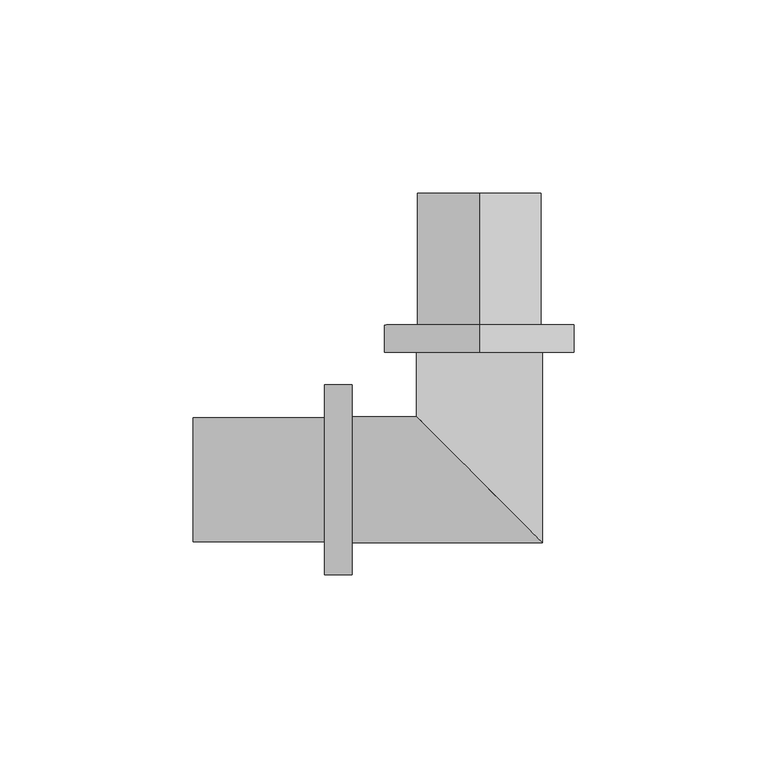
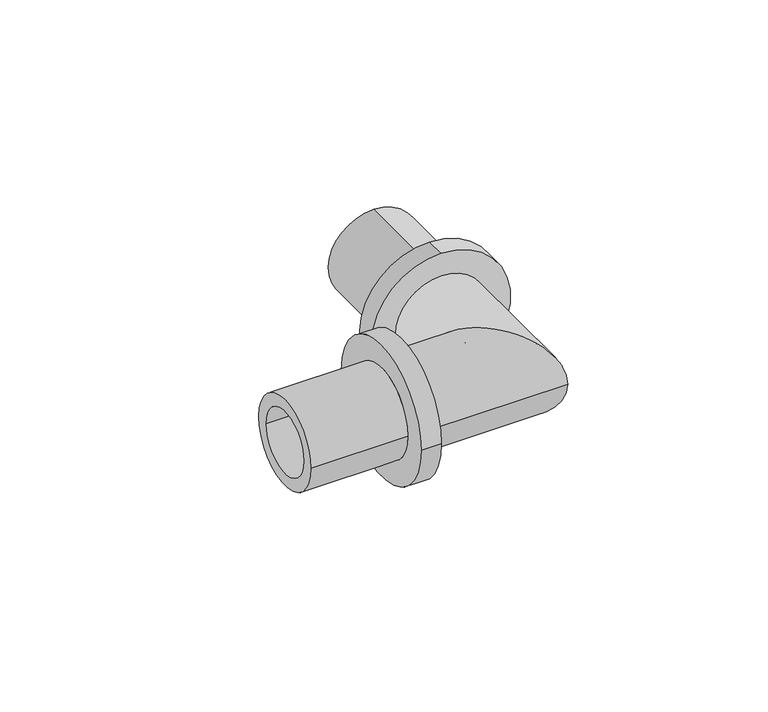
"""IFC4 building model written with IfcOpenShell, lengths in millimetres: pipe fitting geometry, RAUTITAN_Corner_LX : RTI LX/PX C DN."""

from ifc_helpers import new_model, si_unit, frame, origin, place, context, project, spatial, polyline, circle_curve, ellipse_curve, source, transform, mapped, element, save
from ifc_brep_helpers import plane_surface, cylinder_surface, revolved_surface, advanced_brep


def pipe_fitting_5a7cbde5(model_context):
    return source(origin(), model_context, "Body", "AdvancedBrep", [
        advanced_brep(
        [(0.0, 40.0, 24.5), (0.0, 40.0, -24.5), (0.0, 33.0, -24.5), (0.0, 33.0, 24.5), (0.0, 74.0, 16.0), (0.0, 74.0, -16.0), (0.0, 40.0, -16.0), (0.0, 40.0, 16.0), (0.0, 33.0, 11.5), (0.0, 33.0, -11.5), (0.0, 74.0, -11.5), (0.0, 74.0, 11.5)],
        [
            (0, 1, circle_curve(frame((0.0, 40.0, 0.0), z_axis=(0.0, -1.0, 0.0), x_axis=(0.0, 0.0, -1.0)), 24.5)),
            (1, 2),
            (2, 3, circle_curve(frame((0.0, 33.0, 0.0), z_axis=(0.0, 1.0, 0.0), x_axis=(0.0, 0.0, -1.0)), 24.5)),
            (3, 0),
            (4, 5, circle_curve(frame((0.0, 74.0, 0.0), z_axis=(0.0, -1.0, 0.0), x_axis=(0.0, 0.0, -1.0)), 16.0)),
            (5, 6),
            (6, 7, circle_curve(frame((0.0, 40.0, 0.0), z_axis=(0.0, 1.0, 0.0), x_axis=(0.0, 0.0, -1.0)), 16.0)),
            (7, 4),
            (8, 9, circle_curve(frame((0.0, 33.0, 0.0), z_axis=(0.0, -1.0, 0.0), x_axis=(0.0, 0.0, -1.0)), 11.5)),
            (9, 10),
            (10, 11, circle_curve(frame((0.0, 74.0, 0.0), z_axis=(0.0, 1.0, 0.0), x_axis=(0.0, 0.0, -1.0)), 11.5)),
            (11, 8),
            (1, 0, circle_curve(frame((0.0, 40.0, 0.0), z_axis=(0.0, -1.0, 0.0), x_axis=(0.0, 0.0, 1.0)), 24.5)),
            (3, 2, circle_curve(frame((0.0, 33.0, 0.0), z_axis=(0.0, 1.0, 0.0), x_axis=(0.0, 0.0, 1.0)), 24.5)),
            (6, 7, circle_curve(frame((0.0, 40.0, 0.0), z_axis=(0.0, -1.0, 0.0), x_axis=(0.0, 0.0, 1.0)), 16.0)),
            (5, 4, circle_curve(frame((0.0, 74.0, 0.0), z_axis=(0.0, -1.0, 0.0), x_axis=(0.0, 0.0, 1.0)), 16.0)),
            (10, 11, circle_curve(frame((0.0, 74.0, 0.0), z_axis=(0.0, -1.0, 0.0), x_axis=(0.0, 0.0, 1.0)), 11.5)),
            (9, 8, circle_curve(frame((0.0, 33.0, 0.0), z_axis=(0.0, -1.0, 0.0), x_axis=(0.0, 0.0, 1.0)), 11.5)),
        ],
        [
            cylinder_surface(frame((0.0, 33.0, 0.0), z_axis=(0.0, 1.0, 0.0), x_axis=(0.0, 0.0, -1.0)), 24.5),
            cylinder_surface(frame((0.0, 33.0, 0.0), z_axis=(0.0, 1.0, 0.0), x_axis=(0.0, 0.0, -1.0)), 16.0),
            revolved_surface(polyline([(0.0, 74.0, -11.5), (0.0, 33.0, -11.5)]), (0.0, 33.0, 0.0), (0.0, 1.0, 0.0)),
            cylinder_surface(frame((0.0, 33.0, 0.0), z_axis=(0.0, 1.0, 0.0), x_axis=(0.0, 0.0, 1.0)), 24.5),
            plane_surface(frame((0.0, 40.0, 0.0), z_axis=(0.0, 1.0, 0.0), x_axis=(0.0, 0.0, 1.0))),
            cylinder_surface(frame((0.0, 33.0, 0.0), z_axis=(0.0, 1.0, 0.0), x_axis=(0.0, 0.0, 1.0)), 16.0),
            plane_surface(frame((0.0, 74.0, 0.0), z_axis=(0.0, 1.0, 0.0), x_axis=(0.0, 0.0, 1.0))),
            revolved_surface(polyline([(0.0, 74.0, 11.5), (0.0, 33.0, 11.5)]), (0.0, 33.0, 0.0), (0.0, 1.0, 0.0)),
            plane_surface(frame((0.0, 33.0, 0.0), z_axis=(0.0, -1.0, 0.0), x_axis=(0.0, 0.0, 1.0))),
        ],
        [
            (0, [[1, 2, 3, 4]]),
            (1, [[5, 6, 7, 8]]),
            (2, [[9, 10, 11, 12]]),
            (3, [[13, -4, 14, -2]]),
            (4, [[-13, -1], [15, -7]]),
            (5, [[16, -8, -15, -6]]),
            (6, [[-16, -5], [17, -11]]),
            (7, [[18, -12, -17, -10]]),
            (8, [[-14, -3], [-18, -9]]),
        ],
    ),
        advanced_brep(
        [(-40.0, -24.5, 0.0), (-40.0, 24.5, 0.0), (-33.0, 24.5, 0.0), (-33.0, -24.5, 0.0), (-74.0, -16.0, 0.0), (-74.0, 16.0, 0.0), (-40.0, 16.0, 0.0), (-40.0, -16.0, 0.0), (-33.0, -11.5, 0.0), (-33.0, 11.5, 0.0), (-74.0, 11.5, 0.0), (-74.0, -11.5, 0.0)],
        [
            (0, 1, circle_curve(frame((-40.0, 0.0, 0.0), z_axis=(1.0, 0.0, 0.0), x_axis=(0.0, 1.0, 0.0)), 24.5)),
            (1, 2),
            (2, 3, circle_curve(frame((-33.0, 0.0, 0.0), z_axis=(-1.0, 0.0, 0.0), x_axis=(0.0, 1.0, 0.0)), 24.5)),
            (3, 0),
            (4, 5, circle_curve(frame((-74.0, 0.0, 0.0), z_axis=(1.0, 0.0, 0.0), x_axis=(0.0, 1.0, 0.0)), 16.0)),
            (5, 6),
            (6, 7, circle_curve(frame((-40.0, 0.0, 0.0), z_axis=(-1.0, 0.0, 0.0), x_axis=(0.0, 1.0, 0.0)), 16.0)),
            (7, 4),
            (8, 9, circle_curve(frame((-33.0, 0.0, 0.0), z_axis=(1.0, 0.0, 0.0), x_axis=(0.0, 1.0, 0.0)), 11.5)),
            (9, 10),
            (10, 11, circle_curve(frame((-74.0, 0.0, 0.0), z_axis=(-1.0, 0.0, 0.0), x_axis=(0.0, 1.0, 0.0)), 11.5)),
            (11, 8),
            (1, 0, circle_curve(frame((-40.0, 0.0, 0.0), z_axis=(1.0, 0.0, 0.0), x_axis=(0.0, -1.0, 0.0)), 24.5)),
            (3, 2, circle_curve(frame((-33.0, 0.0, 0.0), z_axis=(-1.0, 0.0, 0.0), x_axis=(0.0, -1.0, 0.0)), 24.5)),
            (6, 7, circle_curve(frame((-40.0, 0.0, 0.0), z_axis=(1.0, 0.0, 0.0), x_axis=(0.0, -1.0, 0.0)), 16.0)),
            (5, 4, circle_curve(frame((-74.0, 0.0, 0.0), z_axis=(1.0, 0.0, 0.0), x_axis=(0.0, -1.0, 0.0)), 16.0)),
            (10, 11, circle_curve(frame((-74.0, 0.0, 0.0), z_axis=(1.0, 0.0, 0.0), x_axis=(0.0, -1.0, 0.0)), 11.5)),
            (9, 8, circle_curve(frame((-33.0, 0.0, 0.0), z_axis=(1.0, 0.0, 0.0), x_axis=(0.0, -1.0, 0.0)), 11.5)),
        ],
        [
            cylinder_surface(frame((-33.0, 0.0, 0.0), z_axis=(-1.0, 0.0, 0.0), x_axis=(0.0, 1.0, 0.0)), 24.5),
            cylinder_surface(frame((-33.0, 0.0, 0.0), z_axis=(-1.0, 0.0, 0.0), x_axis=(0.0, 1.0, 0.0)), 16.0),
            revolved_surface(polyline([(-74.0, 11.5, 0.0), (-33.0, 11.5, 0.0)]), (-33.0, 0.0, 0.0), (-1.0, 0.0, 0.0)),
            cylinder_surface(frame((-33.0, 0.0, 0.0), z_axis=(-1.0, 0.0, 0.0), x_axis=(0.0, -1.0, 0.0)), 24.5),
            plane_surface(frame((-40.0, 0.0, 0.0), z_axis=(-1.0, 0.0, 0.0), x_axis=(0.0, -1.0, 0.0))),
            cylinder_surface(frame((-33.0, 0.0, 0.0), z_axis=(-1.0, 0.0, 0.0), x_axis=(0.0, -1.0, 0.0)), 16.0),
            plane_surface(frame((-74.0, 0.0, 0.0), z_axis=(-1.0, 0.0, 0.0), x_axis=(0.0, -1.0, 0.0))),
            revolved_surface(polyline([(-74.0, -11.5, 0.0), (-33.0, -11.5, 0.0)]), (-33.0, 0.0, 0.0), (-1.0, 0.0, 0.0)),
            plane_surface(frame((-33.0, 0.0, 0.0), z_axis=(1.0, 0.0, 0.0), x_axis=(0.0, -1.0, 0.0))),
        ],
        [
            (0, [[1, 2, 3, 4]]),
            (1, [[5, 6, 7, 8]]),
            (2, [[9, 10, 11, 12]]),
            (3, [[13, -4, 14, -2]]),
            (4, [[-13, -1], [15, -7]]),
            (5, [[16, -8, -15, -6]]),
            (6, [[-16, -5], [17, -11]]),
            (7, [[18, -12, -17, -10]]),
            (8, [[-14, -3], [-18, -9]]),
        ],
    ),
        advanced_brep(
        [(-33.0, -16.3, 0.0), (-33.0, 16.3, 0.0), (-33.0, -11.5, 0.0), (-33.0, 11.5, 0.0), (-11.5, 11.5, 0.0), (11.5, -11.5, 0.0), (16.3, 33.0, 0.0), (-16.3, 33.0, 0.0), (11.5, 33.0, 0.0), (-11.5, 33.0, 0.0), (16.3, -16.3, 0.0), (-16.3, 16.3, 0.0)],
        [
            (0, 1, circle_curve(frame((-33.0, 0.0, 0.0), z_axis=(-1.0, 0.0, 0.0), x_axis=(0.0, 1.0, 0.0)), 16.3)),
            (1, 0, circle_curve(frame((-33.0, 0.0, 0.0), z_axis=(-1.0, 0.0, 0.0), x_axis=(0.0, 1.0, 0.0)), 16.3)),
            (2, 3, circle_curve(frame((-33.0, 0.0, 0.0), z_axis=(1.0, 0.0, 0.0), x_axis=(0.0, 1.0, 0.0)), 11.5)),
            (3, 2, circle_curve(frame((-33.0, 0.0, 0.0), z_axis=(1.0, 0.0, 0.0), x_axis=(0.0, 1.0, 0.0)), 11.5)),
            (3, 4),
            (4, 5, ellipse_curve(frame((0.0, 0.0, 0.0), z_axis=(0.7071067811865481, 0.7071067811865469, 0.0), x_axis=(0.7071067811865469, -0.7071067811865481, 0.0)), 16.263456, 11.5)),
            (5, 2),
            (5, 4, ellipse_curve(frame((0.0, 0.0, 0.0), z_axis=(0.7071067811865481, 0.7071067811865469, 0.0), x_axis=(0.7071067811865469, -0.7071067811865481, 0.0)), 16.263456, 11.5)),
            (6, 7, circle_curve(frame((0.0, 33.0, 0.0), z_axis=(0.0, 1.0, 0.0), x_axis=(-1.0, 0.0, 0.0)), 16.3)),
            (7, 6, circle_curve(frame((0.0, 33.0, 0.0), z_axis=(0.0, 1.0, 0.0), x_axis=(-1.0, 0.0, 0.0)), 16.3)),
            (8, 9, circle_curve(frame((0.0, 33.0, 0.0), z_axis=(0.0, -1.0, 0.0), x_axis=(-1.0, 0.0, 0.0)), 11.5)),
            (9, 8, circle_curve(frame((0.0, 33.0, 0.0), z_axis=(0.0, -1.0, 0.0), x_axis=(-1.0, 0.0, 0.0)), 11.5)),
            (4, 9),
            (8, 5),
            (0, 10),
            (10, 11, ellipse_curve(frame((0.0, 0.0, 0.0), z_axis=(-0.7071067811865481, -0.7071067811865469, 0.0), x_axis=(-0.7071067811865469, 0.7071067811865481, 0.0)), 23.0516811, 16.3)),
            (11, 1),
            (11, 10, ellipse_curve(frame((0.0, 0.0, 0.0), z_axis=(-0.7071067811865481, -0.7071067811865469, 0.0), x_axis=(-0.7071067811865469, 0.7071067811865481, 0.0)), 23.0516811, 16.3)),
            (10, 6),
            (7, 11),
        ],
        [
            plane_surface(frame((-33.0, 0.0, 0.0), z_axis=(-1.0, 0.0, 0.0), x_axis=(0.0, 0.0, 1.0))),
            revolved_surface(polyline([(11.500000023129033, 11.5, 0.0), (-33.0, 11.5, 0.0)]), (-33.0, 0.0, 0.0), (1.0, 0.0, 0.0)),
            plane_surface(frame((0.0, 33.0, 0.0), z_axis=(0.0, 1.0, 0.0), x_axis=(0.0, 0.0, 1.0))),
            revolved_surface(polyline([(-11.5, 33.0, 0.0), (-11.5, -11.500000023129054, 0.0)]), (0.0, 0.0, 0.0), (0.0, 1.0, 0.0)),
            cylinder_surface(frame((-33.0, 0.0, 0.0), z_axis=(-1.0, 0.0, 0.0), x_axis=(0.0, 1.0, 0.0)), 16.3),
            cylinder_surface(frame((0.0, 0.0, 0.0), z_axis=(0.0, -1.0, 0.0), x_axis=(-1.0, 0.0, 0.0)), 16.3),
        ],
        [
            (0, [[1, 2], [3, 4]]),
            (1, [[-4, 5, 6, 7]]),
            (1, [[-3, -7, 8, -5]]),
            (2, [[9, 10], [11, 12]]),
            (3, [[-6, 13, -11, 14]]),
            (3, [[-8, -14, -12, -13]]),
            (4, [[-1, 15, 16, 17]]),
            (4, [[-2, -17, 18, -15]]),
            (5, [[-16, 19, -10, 20]]),
            (5, [[-18, -20, -9, -19]]),
        ],
    ),
    ])


if __name__ == "__main__":
    model = new_model("IFC4")
    model_context = context("Model", 3, world=origin())
    ifc_project = project(units=[si_unit("LENGTHUNIT", "METRE", prefix="MILLI")], contexts=[model_context])
    site = spatial("IfcSite", under=ifc_project)
    building = spatial("IfcBuilding", under=site)
    placement = place(None, origin())
    pipe_fitting_shape = pipe_fitting_5a7cbde5(model_context)
    element("IfcPipeFitting", 1, ObjectType="RAUTITAN_Corner_LX : RTI LX/PX C DN", at=placement, inside=building, context=model_context, shape_type="MappedRepresentation", body=[
        mapped(pipe_fitting_shape, transform((0.0, 0.0, 0.0), x_axis=(1.0, 0.0, 0.0), y_axis=(0.0, 1.0, 0.0), z_axis=(0.0, 0.0, 1.0))),
    ])
    save(model, "model.ifc")
